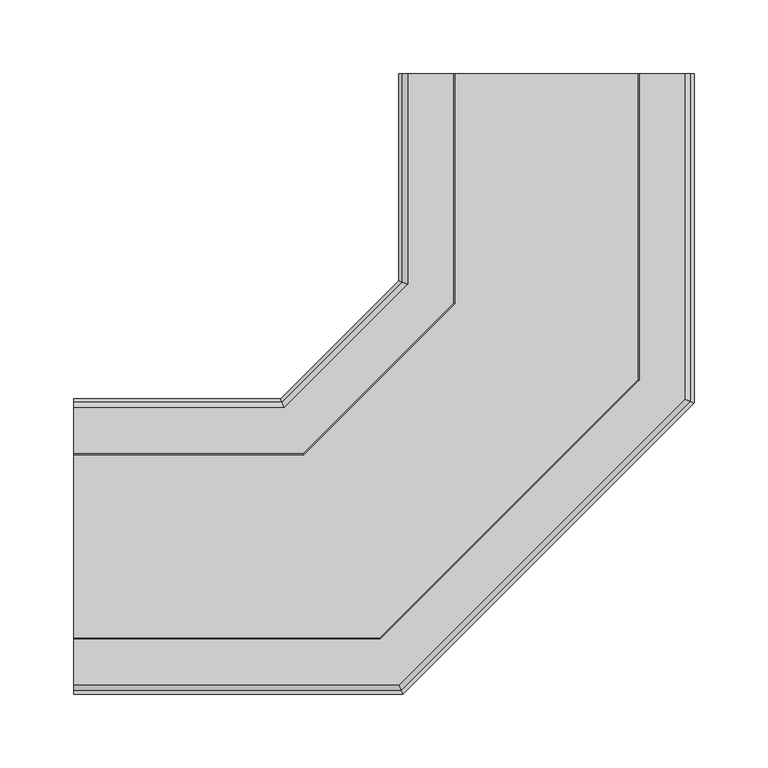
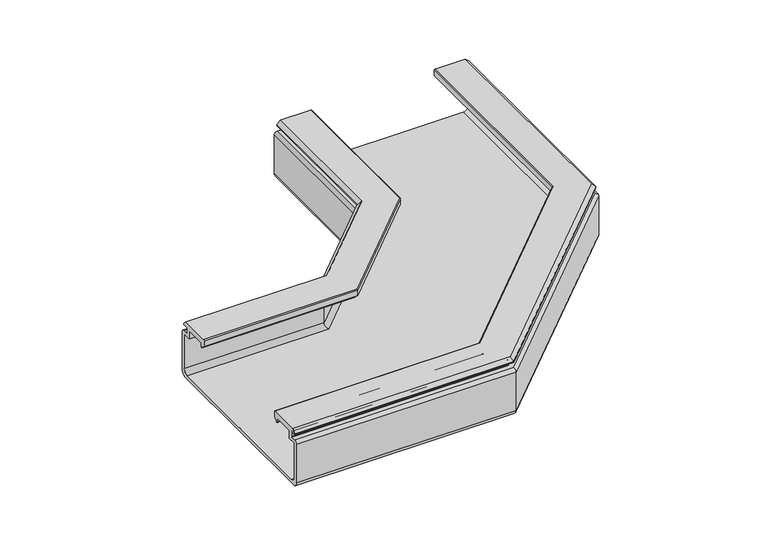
"""IFC4 building model written with IfcOpenShell, lengths in millimetres: cable carrier fitting geometry, CPBPE_Horizontal Bend_Basorplast : Basorplast CPBPE."""

from ifc_helpers import new_model, si_unit, frame, origin, place, context, project, spatial, polyline, circle_curve, ellipse_curve, source, transform, mapped, element, save
from ifc_brep_helpers import plane_surface, cylinder_surface, revolved_surface, advanced_brep


def cable_carrier_fitting_6fc50fa4(model_context):
    return source(origin(), model_context, "Body", "AdvancedBrep", [
        advanced_brep(
        [(-65.6464466, 320.0, 19.6464466), (-66.5, 320.0, 20.0), (-66.5, 320.0, 24.0), (-87.9, 320.0, 24.0), (-87.9, 320.0, 15.7), (-96.4, 320.0, 15.7), (-96.4, 320.0, -21.4), (-91.4, 320.0, -26.4), (91.4, 320.0, -26.4), (96.4, 320.0, -21.4), (96.4, 320.0, 15.7), (87.9, 320.0, 15.7), (87.9, 320.0, 24.0), (66.5, 320.0, 24.0), (66.5, 320.0, 20.0), (65.6464466, 320.0, 19.6464466), (62.0, 320.0, 23.2928932), (62.0, 320.0, 29.0), (63.0, 320.0, 30.0), (93.8, 320.0, 30.0), (97.5, 320.0, 26.3), (97.5, 320.0, 25.3), (92.0, 320.0, 25.3), (91.5, 320.0, 24.8), (91.5, 320.0, 19.8), (92.0, 320.0, 19.3), (97.0, 320.0, 19.3), (100.0, 320.0, 16.3), (100.0, 320.0, -25.0), (95.0, 320.0, -30.0), (-95.0, 320.0, -30.0), (-100.0, 320.0, -25.0), (-100.0, 320.0, 16.3), (-97.0, 320.0, 19.3), (-92.0, 320.0, 19.3), (-91.5, 320.0, 19.8), (-91.5, 320.0, 24.8), (-92.0, 320.0, 25.3), (-97.5, 320.0, 25.3), (-97.5, 320.0, 26.3), (-93.8, 320.0, 30.0), (-63.0, 320.0, 30.0), (-62.0, 320.0, 29.0), (-62.0, 320.0, 23.2928932), (-65.6464466, 165.7702923, 19.6464466), (-66.5, 166.1238457, 20.0), (-66.5, 166.1238457, 24.0), (-166.1238457, 66.5, 24.0), (-320.0, 66.5, 24.0), (-320.0, 87.9, 24.0), (-174.9880159, 87.9, 24.0), (-87.9, 174.9880159, 24.0), (-87.9, 174.9880159, 15.7), (-174.9880159, 87.9, 15.7), (-320.0, 87.9, 15.7), (-320.0, 96.4, 15.7), (-178.5088312, 96.4, 15.7), (-96.4, 178.5088312, 15.7), (-96.4, 178.5088312, -21.4), (-91.4, 176.4377634, -26.4), (-176.4377634, 91.4, -26.4), (-320.0, 91.4, -26.4), (-320.0, -91.4, -26.4), (-100.7195242, -91.4, -26.4), (91.4, 100.7195242, -26.4), (96.4, 98.6484563, -21.4), (96.4, 98.6484563, 15.7), (-98.6484563, -96.4, 15.7), (-320.0, -96.4, 15.7), (-320.0, -87.9, 15.7), (-102.1692716, -87.9, 15.7), (87.9, 102.1692716, 15.7), (87.9, 102.1692716, 24.0), (-102.1692716, -87.9, 24.0), (-320.0, -87.9, 24.0), (-320.0, -66.5, 24.0), (-111.0334419, -66.5, 24.0), (66.5, 111.0334419, 24.0), (66.5, 111.0334419, 20.0), (65.6464466, 111.3869953, 19.6464466), (62.0, 112.8974029, 23.2928932), (62.0, 112.8974029, 29.0), (63.0, 112.4831893, 30.0), (-112.4831893, -63.0, 30.0), (-320.0, -63.0, 30.0), (-320.0, -93.8, 30.0), (-99.7254116, -93.8, 30.0), (93.8, 99.7254116, 30.0), (97.5, 98.1928214, 26.3), (97.5, 98.1928214, 25.3), (-98.1928214, -97.5, 25.3), (-320.0, -97.5, 25.3), (-320.0, -92.0, 25.3), (-100.470996, -92.0, 25.3), (92.0, 100.470996, 25.3), (91.5, 100.6781028, 24.8), (91.5, 100.6781028, 19.8), (92.0, 100.470996, 19.3), (-100.470996, -92.0, 19.3), (-320.0, -92.0, 19.3), (-320.0, -97.0, 19.3), (-98.3999282, -97.0, 19.3), (97.0, 98.3999282, 19.3), (100.0, 97.1572875, 16.3), (100.0, 97.1572875, -25.0), (95.0, 99.2283553, -30.0), (-99.2283553, -95.0, -30.0), (-320.0, -95.0, -30.0), (-320.0, 95.0, -30.0), (-177.9289322, 95.0, -30.0), (-95.0, 177.9289322, -30.0), (-100.0, 180.0, -25.0), (-100.0, 180.0, 16.3), (-97.0, 178.7573593, 19.3), (-178.7573593, 97.0, 19.3), (-320.0, 97.0, 19.3), (-320.0, 92.0, 19.3), (-176.6862915, 92.0, 19.3), (-92.0, 176.6862915, 19.3), (-91.5, 176.4791847, 19.8), (-91.5, 176.4791847, 24.8), (-92.0, 176.6862915, 25.3), (-176.6862915, 92.0, 25.3), (-320.0, 92.0, 25.3), (-320.0, 97.5, 25.3), (-178.9644661, 97.5, 25.3), (-97.5, 178.9644661, 25.3), (-97.5, 178.9644661, 26.3), (-93.8, 177.4318759, 30.0), (-177.4318759, 93.8, 30.0), (-320.0, 93.8, 30.0), (-320.0, 63.0, 30.0), (-164.6740982, 63.0, 30.0), (-63.0, 164.6740982, 30.0), (-62.0, 164.2598846, 29.0), (-62.0, 164.2598846, 23.2928932), (-165.7702923, 65.6464466, 19.6464466), (-166.1238457, 66.5, 20.0), (-178.5088312, 96.4, -21.4), (-98.6484563, -96.4, -21.4), (-111.0334419, -66.5, 20.0), (-111.3869953, -65.6464466, 19.6464466), (-112.8974029, -62.0, 23.2928932), (-112.8974029, -62.0, 29.0), (-98.1928214, -97.5, 26.3), (-100.6781028, -91.5, 24.8), (-100.6781028, -91.5, 19.8), (-97.1572875, -100.0, 16.3), (-97.1572875, -100.0, -25.0), (-180.0, 100.0, -25.0), (-180.0, 100.0, 16.3), (-176.4791847, 91.5, 19.8), (-176.4791847, 91.5, 24.8), (-178.9644661, 97.5, 26.3), (-164.2598846, 62.0, 29.0), (-164.2598846, 62.0, 23.2928932), (-320.0, 65.6464466, 19.6464466), (-320.0, 62.0, 23.2928932), (-320.0, 62.0, 29.0), (-320.0, 97.5, 26.3), (-320.0, 91.5, 24.8), (-320.0, 91.5, 19.8), (-320.0, 100.0, 16.3), (-320.0, 100.0, -25.0), (-320.0, -100.0, -25.0), (-320.0, -100.0, 16.3), (-320.0, -91.5, 19.8), (-320.0, -91.5, 24.8), (-320.0, -97.5, 26.3), (-320.0, -62.0, 29.0), (-320.0, -62.0, 23.2928932), (-320.0, -65.6464466, 19.6464466), (-320.0, -66.5, 20.0), (-320.0, -96.4, -21.4), (-320.0, 96.4, -21.4), (-320.0, 66.5, 20.0)],
        [
            (0, 1, circle_curve(frame((-66.0, 320.0, 20.0), z_axis=(0.0, 1.0, 0.0), x_axis=(1.0, 0.0, 0.0)), 0.5)),
            (1, 2),
            (2, 3),
            (3, 4),
            (4, 5),
            (5, 6),
            (6, 7, circle_curve(frame((-91.4, 320.0, -21.4), z_axis=(0.0, -1.0, 0.0), x_axis=(1.0, 0.0, 0.0)), 5.0)),
            (7, 8),
            (8, 9, circle_curve(frame((91.4, 320.0, -21.4), z_axis=(0.0, -1.0, 0.0), x_axis=(1.0, 0.0, 0.0)), 5.0)),
            (9, 10),
            (10, 11),
            (11, 12),
            (12, 13),
            (13, 14),
            (14, 15, circle_curve(frame((66.0, 320.0, 20.0), z_axis=(0.0, 1.0, 0.0), x_axis=(1.0, 0.0, 0.0)), 0.5)),
            (15, 16),
            (16, 17),
            (17, 18, circle_curve(frame((63.0, 320.0, 29.0), z_axis=(0.0, 1.0, 0.0), x_axis=(1.0, 0.0, 0.0)), 1.0)),
            (18, 19),
            (19, 20),
            (20, 21),
            (21, 22),
            (22, 23, circle_curve(frame((92.0, 320.0, 24.8), z_axis=(0.0, -1.0, 0.0), x_axis=(1.0, 0.0, 0.0)), 0.5)),
            (23, 24),
            (24, 25, circle_curve(frame((92.0, 320.0, 19.8), z_axis=(0.0, -1.0, 0.0), x_axis=(1.0, 0.0, 0.0)), 0.5)),
            (25, 26),
            (26, 27, circle_curve(frame((97.0, 320.0, 16.3), z_axis=(0.0, 1.0, 0.0), x_axis=(1.0, 0.0, 0.0)), 3.0)),
            (27, 28),
            (28, 29, circle_curve(frame((95.0, 320.0, -25.0), z_axis=(0.0, 1.0, 0.0), x_axis=(1.0, 0.0, 0.0)), 5.0)),
            (29, 30),
            (30, 31, circle_curve(frame((-95.0, 320.0, -25.0), z_axis=(0.0, 1.0, 0.0), x_axis=(1.0, 0.0, 0.0)), 5.0)),
            (31, 32),
            (32, 33, circle_curve(frame((-97.0, 320.0, 16.3), z_axis=(0.0, 1.0, 0.0), x_axis=(1.0, 0.0, 0.0)), 3.0)),
            (33, 34),
            (34, 35, circle_curve(frame((-92.0, 320.0, 19.8), z_axis=(0.0, -1.0, 0.0), x_axis=(1.0, 0.0, 0.0)), 0.5)),
            (35, 36),
            (36, 37, circle_curve(frame((-92.0, 320.0, 24.8), z_axis=(0.0, -1.0, 0.0), x_axis=(1.0, 0.0, 0.0)), 0.5)),
            (37, 38),
            (38, 39),
            (39, 40),
            (40, 41),
            (41, 42, circle_curve(frame((-63.0, 320.0, 29.0), z_axis=(0.0, 1.0, 0.0), x_axis=(1.0, 0.0, 0.0)), 1.0)),
            (42, 43),
            (43, 0),
            (0, 44),
            (44, 45, ellipse_curve(frame((-66.0, 165.9167389, 20.0), z_axis=(0.3826834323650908, 0.9238795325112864, 0.0), x_axis=(-0.9238795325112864, 0.38268343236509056, 0.0)), 0.5411961, 0.5)),
            (45, 1),
            (45, 46),
            (46, 2),
            (46, 47),
            (47, 48),
            (48, 49),
            (49, 50),
            (50, 51),
            (51, 3),
            (51, 52),
            (52, 4),
            (52, 53),
            (53, 54),
            (54, 55),
            (55, 56),
            (56, 57),
            (57, 5),
            (57, 58),
            (58, 6),
            (58, 59, ellipse_curve(frame((-91.4, 176.4377634, -21.4), z_axis=(-0.3826834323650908, -0.9238795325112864, 0.0), x_axis=(0.9238795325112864, -0.38268343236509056, 0.0)), 5.411961, 5.0)),
            (59, 7),
            (59, 60),
            (60, 61),
            (61, 62),
            (62, 63),
            (63, 64),
            (64, 8),
            (64, 65, ellipse_curve(frame((91.4, 100.7195242, -21.4), z_axis=(-0.3826834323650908, -0.9238795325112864, 0.0), x_axis=(0.9238795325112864, -0.38268343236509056, 0.0)), 5.411961, 5.0)),
            (65, 9),
            (65, 66),
            (66, 10),
            (66, 67),
            (67, 68),
            (68, 69),
            (69, 70),
            (70, 71),
            (71, 11),
            (71, 72),
            (72, 12),
            (72, 73),
            (73, 74),
            (74, 75),
            (75, 76),
            (76, 77),
            (77, 13),
            (77, 78),
            (78, 14),
            (78, 79, ellipse_curve(frame((66.0, 111.2405486, 20.0), z_axis=(0.3826834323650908, 0.9238795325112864, 0.0), x_axis=(-0.9238795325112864, 0.38268343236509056, 0.0)), 0.5411961, 0.5)),
            (79, 15),
            (79, 80),
            (80, 16),
            (80, 81),
            (81, 17),
            (81, 82, ellipse_curve(frame((63.0, 112.4831893, 29.0), z_axis=(0.3826834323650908, 0.9238795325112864, 0.0), x_axis=(-0.9238795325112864, 0.38268343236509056, 0.0)), 1.0823922, 1.0)),
            (82, 18),
            (82, 83),
            (83, 84),
            (84, 85),
            (85, 86),
            (86, 87),
            (87, 19),
            (87, 88),
            (88, 20),
            (88, 89),
            (89, 21),
            (89, 90),
            (90, 91),
            (91, 92),
            (92, 93),
            (93, 94),
            (94, 22),
            (94, 95, ellipse_curve(frame((92.0, 100.470996, 24.8), z_axis=(-0.3826834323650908, -0.9238795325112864, 0.0), x_axis=(0.9238795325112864, -0.38268343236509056, 0.0)), 0.5411961, 0.5)),
            (95, 23),
            (95, 96),
            (96, 24),
            (96, 97, ellipse_curve(frame((92.0, 100.470996, 19.8), z_axis=(-0.3826834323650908, -0.9238795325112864, 0.0), x_axis=(0.9238795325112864, -0.38268343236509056, 0.0)), 0.5411961, 0.5)),
            (97, 25),
            (97, 98),
            (98, 99),
            (99, 100),
            (100, 101),
            (101, 102),
            (102, 26),
            (102, 103, ellipse_curve(frame((97.0, 98.3999282, 16.3), z_axis=(0.3826834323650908, 0.9238795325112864, 0.0), x_axis=(-0.9238795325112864, 0.38268343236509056, 0.0)), 3.2471766, 3.0)),
            (103, 27),
            (103, 104),
            (104, 28),
            (104, 105, ellipse_curve(frame((95.0, 99.2283553, -25.0), z_axis=(0.3826834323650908, 0.9238795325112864, 0.0), x_axis=(-0.9238795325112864, 0.38268343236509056, 0.0)), 5.411961, 5.0)),
            (105, 29),
            (105, 106),
            (106, 107),
            (107, 108),
            (108, 109),
            (109, 110),
            (110, 30),
            (110, 111, ellipse_curve(frame((-95.0, 177.9289322, -25.0), z_axis=(0.3826834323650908, 0.9238795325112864, 0.0), x_axis=(-0.9238795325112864, 0.38268343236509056, 0.0)), 5.411961, 5.0)),
            (111, 31),
            (111, 112),
            (112, 32),
            (112, 113, ellipse_curve(frame((-97.0, 178.7573593, 16.3), z_axis=(0.3826834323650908, 0.9238795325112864, 0.0), x_axis=(-0.9238795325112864, 0.38268343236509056, 0.0)), 3.2471766, 3.0)),
            (113, 33),
            (113, 114),
            (114, 115),
            (115, 116),
            (116, 117),
            (117, 118),
            (118, 34),
            (118, 119, ellipse_curve(frame((-92.0, 176.6862915, 19.8), z_axis=(-0.3826834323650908, -0.9238795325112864, 0.0), x_axis=(0.9238795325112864, -0.38268343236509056, 0.0)), 0.5411961, 0.5)),
            (119, 35),
            (119, 120),
            (120, 36),
            (120, 121, ellipse_curve(frame((-92.0, 176.6862915, 24.8), z_axis=(-0.3826834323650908, -0.9238795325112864, 0.0), x_axis=(0.9238795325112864, -0.38268343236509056, 0.0)), 0.5411961, 0.5)),
            (121, 37),
            (121, 122),
            (122, 123),
            (123, 124),
            (124, 125),
            (125, 126),
            (126, 38),
            (126, 127),
            (127, 39),
            (127, 128),
            (128, 40),
            (128, 129),
            (129, 130),
            (130, 131),
            (131, 132),
            (132, 133),
            (133, 41),
            (133, 134, ellipse_curve(frame((-63.0, 164.6740982, 29.0), z_axis=(0.3826834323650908, 0.9238795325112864, 0.0), x_axis=(-0.9238795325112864, 0.38268343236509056, 0.0)), 1.0823922, 1.0)),
            (134, 42),
            (134, 135),
            (135, 43),
            (135, 44),
            (44, 136),
            (136, 137, ellipse_curve(frame((-165.9167389, 66.0, 20.0), z_axis=(0.9238795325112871, 0.3826834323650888, 0.0), x_axis=(-0.38268343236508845, 0.9238795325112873, 0.0)), 0.5411961, 0.5)),
            (137, 45),
            (137, 47),
            (50, 53),
            (56, 138),
            (138, 58),
            (138, 60, ellipse_curve(frame((-176.4377634, 91.4, -21.4), z_axis=(-0.9238795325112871, -0.3826834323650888, 0.0), x_axis=(0.38268343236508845, -0.9238795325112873, 0.0)), 5.411961, 5.0)),
            (63, 139, ellipse_curve(frame((-100.7195242, -91.4, -21.4), z_axis=(-0.9238795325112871, -0.3826834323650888, 0.0), x_axis=(0.38268343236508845, -0.9238795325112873, 0.0)), 5.411961, 5.0)),
            (139, 65),
            (139, 67),
            (70, 73),
            (76, 140),
            (140, 78),
            (140, 141, ellipse_curve(frame((-111.2405486, -66.0, 20.0), z_axis=(0.9238795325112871, 0.3826834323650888, 0.0), x_axis=(-0.38268343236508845, 0.9238795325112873, 0.0)), 0.5411961, 0.5)),
            (141, 79),
            (141, 142),
            (142, 80),
            (142, 143),
            (143, 81),
            (143, 83, ellipse_curve(frame((-112.4831893, -63.0, 29.0), z_axis=(0.9238795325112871, 0.3826834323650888, 0.0), x_axis=(-0.38268343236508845, 0.9238795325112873, 0.0)), 1.0823922, 1.0)),
            (86, 144),
            (144, 88),
            (144, 90),
            (93, 145, ellipse_curve(frame((-100.470996, -92.0, 24.8), z_axis=(-0.9238795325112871, -0.3826834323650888, 0.0), x_axis=(0.38268343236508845, -0.9238795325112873, 0.0)), 0.5411961, 0.5)),
            (145, 95),
            (145, 146),
            (146, 96),
            (146, 98, ellipse_curve(frame((-100.470996, -92.0, 19.8), z_axis=(-0.9238795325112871, -0.3826834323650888, 0.0), x_axis=(0.38268343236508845, -0.9238795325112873, 0.0)), 0.5411961, 0.5)),
            (101, 147, ellipse_curve(frame((-98.3999282, -97.0, 16.3), z_axis=(0.9238795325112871, 0.3826834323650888, 0.0), x_axis=(-0.38268343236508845, 0.9238795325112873, 0.0)), 3.2471766, 3.0)),
            (147, 103),
            (147, 148),
            (148, 104),
            (148, 106, ellipse_curve(frame((-99.2283553, -95.0, -25.0), z_axis=(0.9238795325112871, 0.3826834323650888, 0.0), x_axis=(-0.38268343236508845, 0.9238795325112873, 0.0)), 5.411961, 5.0)),
            (109, 149, ellipse_curve(frame((-177.9289322, 95.0, -25.0), z_axis=(0.9238795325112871, 0.3826834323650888, 0.0), x_axis=(-0.38268343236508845, 0.9238795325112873, 0.0)), 5.411961, 5.0)),
            (149, 111),
            (149, 150),
            (150, 112),
            (150, 114, ellipse_curve(frame((-178.7573593, 97.0, 16.3), z_axis=(0.9238795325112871, 0.3826834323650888, 0.0), x_axis=(-0.38268343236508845, 0.9238795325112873, 0.0)), 3.2471766, 3.0)),
            (117, 151, ellipse_curve(frame((-176.6862915, 92.0, 19.8), z_axis=(-0.9238795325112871, -0.3826834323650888, 0.0), x_axis=(0.38268343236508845, -0.9238795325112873, 0.0)), 0.5411961, 0.5)),
            (151, 119),
            (151, 152),
            (152, 120),
            (152, 122, ellipse_curve(frame((-176.6862915, 92.0, 24.8), z_axis=(-0.9238795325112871, -0.3826834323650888, 0.0), x_axis=(0.38268343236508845, -0.9238795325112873, 0.0)), 0.5411961, 0.5)),
            (125, 153),
            (153, 127),
            (153, 129),
            (132, 154, ellipse_curve(frame((-164.6740982, 63.0, 29.0), z_axis=(0.9238795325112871, 0.3826834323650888, 0.0), x_axis=(-0.38268343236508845, 0.9238795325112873, 0.0)), 1.0823922, 1.0)),
            (154, 134),
            (154, 155),
            (155, 135),
            (155, 136),
            (156, 157),
            (157, 158),
            (158, 131, circle_curve(frame((-320.0, 63.0, 29.0), z_axis=(-1.0, 0.0, 0.0), x_axis=(0.0, -1.0, 0.0)), 1.0)),
            (130, 159),
            (159, 124),
            (123, 160, circle_curve(frame((-320.0, 92.0, 24.8), z_axis=(1.0, 0.0, 0.0), x_axis=(0.0, -1.0, 0.0)), 0.5)),
            (160, 161),
            (161, 116, circle_curve(frame((-320.0, 92.0, 19.8), z_axis=(1.0, 0.0, 0.0), x_axis=(0.0, -1.0, 0.0)), 0.5)),
            (115, 162, circle_curve(frame((-320.0, 97.0, 16.3), z_axis=(-1.0, 0.0, 0.0), x_axis=(0.0, -1.0, 0.0)), 3.0)),
            (162, 163),
            (163, 108, circle_curve(frame((-320.0, 95.0, -25.0), z_axis=(-1.0, 0.0, 0.0), x_axis=(0.0, -1.0, 0.0)), 5.0)),
            (107, 164, circle_curve(frame((-320.0, -95.0, -25.0), z_axis=(-1.0, 0.0, 0.0), x_axis=(0.0, -1.0, 0.0)), 5.0)),
            (164, 165),
            (165, 100, circle_curve(frame((-320.0, -97.0, 16.3), z_axis=(-1.0, 0.0, 0.0), x_axis=(0.0, -1.0, 0.0)), 3.0)),
            (99, 166, circle_curve(frame((-320.0, -92.0, 19.8), z_axis=(1.0, 0.0, 0.0), x_axis=(0.0, -1.0, 0.0)), 0.5)),
            (166, 167),
            (167, 92, circle_curve(frame((-320.0, -92.0, 24.8), z_axis=(1.0, 0.0, 0.0), x_axis=(0.0, -1.0, 0.0)), 0.5)),
            (91, 168),
            (168, 85),
            (84, 169, circle_curve(frame((-320.0, -63.0, 29.0), z_axis=(-1.0, 0.0, 0.0), x_axis=(0.0, -1.0, 0.0)), 1.0)),
            (169, 170),
            (170, 171),
            (171, 172, circle_curve(frame((-320.0, -66.0, 20.0), z_axis=(-1.0, 0.0, 0.0), x_axis=(0.0, -1.0, 0.0)), 0.5)),
            (172, 75),
            (74, 69),
            (68, 173),
            (173, 62, circle_curve(frame((-320.0, -91.4, -21.4), z_axis=(1.0, 0.0, 0.0), x_axis=(0.0, -1.0, 0.0)), 5.0)),
            (61, 174, circle_curve(frame((-320.0, 91.4, -21.4), z_axis=(1.0, 0.0, 0.0), x_axis=(0.0, -1.0, 0.0)), 5.0)),
            (174, 55),
            (54, 49),
            (48, 175),
            (175, 156, circle_curve(frame((-320.0, 66.0, 20.0), z_axis=(-1.0, 0.0, 0.0), x_axis=(0.0, -1.0, 0.0)), 0.5)),
            (136, 156),
            (175, 137),
            (174, 138),
            (173, 139),
            (172, 140),
            (171, 141),
            (170, 142),
            (169, 143),
            (168, 144),
            (167, 145),
            (166, 146),
            (165, 147),
            (164, 148),
            (163, 149),
            (162, 150),
            (161, 151),
            (160, 152),
            (159, 153),
            (158, 154),
            (157, 155),
        ],
        [
            plane_surface(frame((0.0, 320.0, 0.0), z_axis=(0.0, 1.0, 0.0), x_axis=(0.0, 0.0, 1.0))),
            cylinder_surface(frame((-66.0, 320.0, 20.0), z_axis=(0.0, 1.0, 0.0), x_axis=(1.0, 0.0, 0.0)), 0.5),
            plane_surface(frame((-66.5, 320.0, 20.0), z_axis=(-1.0, 0.0, 0.0), x_axis=(0.0, -1.0, 0.0))),
            plane_surface(frame((-66.5, 320.0, 24.0), z_axis=(0.0, 0.0, -1.0), x_axis=(0.0, -1.0, 0.0))),
            plane_surface(frame((-87.9, 320.0, 24.0), z_axis=(1.0, 0.0, 0.0), x_axis=(0.0, -1.0, 0.0))),
            plane_surface(frame((-87.9, 320.0, 15.7), z_axis=(0.0, 0.0, -1.0), x_axis=(0.0, -1.0, 0.0))),
            plane_surface(frame((-96.4, 320.0, 15.7), z_axis=(1.0, 0.0, 0.0), x_axis=(0.0, -1.0, 0.0))),
            revolved_surface(polyline([(-86.4, 174.366695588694, -21.4), (-86.4, 320.0, -21.4)]), (-91.4, 320.0, -21.4), (0.0, -1.0, 0.0)),
            plane_surface(frame((-91.4, 320.0, -26.4), z_axis=(0.0, 0.0, 1.0), x_axis=(0.0, -1.0, 0.0))),
            revolved_surface(polyline([(96.4, 98.64845630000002, -21.4), (96.4, 320.0, -21.4)]), (91.4, 320.0, -21.4), (0.0, -1.0, 0.0)),
            plane_surface(frame((96.4, 320.0, -21.4), z_axis=(-1.0, 0.0, 0.0), x_axis=(0.0, -1.0, 0.0))),
            plane_surface(frame((96.4, 320.0, 15.7), z_axis=(0.0, 0.0, -1.0), x_axis=(0.0, -1.0, 0.0))),
            plane_surface(frame((87.9, 320.0, 15.7), z_axis=(-1.0, 0.0, 0.0), x_axis=(0.0, -1.0, 0.0))),
            plane_surface(frame((87.9, 320.0, 24.0), z_axis=(0.0, 0.0, -1.0), x_axis=(0.0, -1.0, 0.0))),
            plane_surface(frame((66.5, 320.0, 24.0), z_axis=(1.0, 0.0, 0.0), x_axis=(0.0, -1.0, 0.0))),
            cylinder_surface(frame((66.0, 320.0, 20.0), z_axis=(0.0, 1.0, 0.0), x_axis=(1.0, 0.0, 0.0)), 0.5),
            plane_surface(frame((65.6464466, 320.0, 19.6464466), z_axis=(-0.7071067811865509, 0.0, -0.7071067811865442), x_axis=(0.0, -1.0, 0.0))),
            plane_surface(frame((62.0, 320.0, 23.2928932), z_axis=(-1.0, 0.0, 0.0), x_axis=(0.0, -1.0, 0.0))),
            cylinder_surface(frame((63.0, 320.0, 29.0), z_axis=(0.0, 1.0, 0.0), x_axis=(1.0, 0.0, 0.0)), 1.0),
            plane_surface(frame((63.0, 320.0, 30.0), z_axis=(0.0, 0.0, 1.0), x_axis=(0.0, -1.0, 0.0))),
            plane_surface(frame((93.8, 320.0, 30.0), z_axis=(0.7071067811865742, 0.0, 0.7071067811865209), x_axis=(0.0, -1.0, 0.0))),
            plane_surface(frame((97.5, 320.0, 26.3), z_axis=(1.0, 0.0, 0.0), x_axis=(0.0, -1.0, 0.0))),
            plane_surface(frame((97.5, 320.0, 25.3), z_axis=(0.0, 0.0, -1.0), x_axis=(0.0, -1.0, 0.0))),
            revolved_surface(polyline([(92.5, 100.26388921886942, 24.8), (92.5, 320.0, 24.8)]), (92.0, 320.0, 24.8), (0.0, -1.0, 0.0)),
            plane_surface(frame((91.5, 320.0, 24.8), z_axis=(1.0, 0.0, 0.0), x_axis=(0.0, -1.0, 0.0))),
            revolved_surface(polyline([(92.5, 100.26388921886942, 19.8), (92.5, 320.0, 19.8)]), (92.0, 320.0, 19.8), (0.0, -1.0, 0.0)),
            plane_surface(frame((92.0, 320.0, 19.3), z_axis=(0.0, 0.0, 1.0), x_axis=(0.0, -1.0, 0.0))),
            cylinder_surface(frame((97.0, 320.0, 16.3), z_axis=(0.0, 1.0, 0.0), x_axis=(1.0, 0.0, 0.0)), 3.0),
            plane_surface(frame((100.0, 320.0, 16.3), z_axis=(1.0, 0.0, 0.0), x_axis=(0.0, -1.0, 0.0))),
            cylinder_surface(frame((95.0, 320.0, -25.0), z_axis=(0.0, 1.0, 0.0), x_axis=(1.0, 0.0, 0.0)), 5.0),
            plane_surface(frame((95.0, 320.0, -30.0), z_axis=(0.0, 0.0, -1.0), x_axis=(0.0, -1.0, 0.0))),
            cylinder_surface(frame((-95.0, 320.0, -25.0), z_axis=(0.0, 1.0, 0.0), x_axis=(1.0, 0.0, 0.0)), 5.0),
            plane_surface(frame((-100.0, 320.0, -25.0), z_axis=(-1.0, 0.0, 0.0), x_axis=(0.0, -1.0, 0.0))),
            cylinder_surface(frame((-97.0, 320.0, 16.3), z_axis=(0.0, 1.0, 0.0), x_axis=(1.0, 0.0, 0.0)), 3.0),
            plane_surface(frame((-97.0, 320.0, 19.3), z_axis=(0.0, 0.0, 1.0), x_axis=(0.0, -1.0, 0.0))),
            revolved_surface(polyline([(-91.5, 176.4791847, 19.8), (-91.5, 320.0, 19.8)]), (-92.0, 320.0, 19.8), (0.0, -1.0, 0.0)),
            plane_surface(frame((-91.5, 320.0, 19.8), z_axis=(-1.0, 0.0, 0.0), x_axis=(0.0, -1.0, 0.0))),
            revolved_surface(polyline([(-91.5, 176.4791847, 24.8), (-91.5, 320.0, 24.8)]), (-92.0, 320.0, 24.8), (0.0, -1.0, 0.0)),
            plane_surface(frame((-92.0, 320.0, 25.3), z_axis=(0.0, 0.0, -1.0), x_axis=(0.0, -1.0, 0.0))),
            plane_surface(frame((-97.5, 320.0, 25.3), z_axis=(-1.0, 0.0, 0.0), x_axis=(0.0, -1.0, 0.0))),
            plane_surface(frame((-97.5, 320.0, 26.3), z_axis=(-0.7071067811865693, 0.0, 0.7071067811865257), x_axis=(0.0, -1.0, 0.0))),
            plane_surface(frame((-93.8, 320.0, 30.0), z_axis=(0.0, 0.0, 1.0), x_axis=(0.0, -1.0, 0.0))),
            cylinder_surface(frame((-63.0, 320.0, 29.0), z_axis=(0.0, 1.0, 0.0), x_axis=(1.0, 0.0, 0.0)), 1.0),
            plane_surface(frame((-62.0, 320.0, 29.0), z_axis=(1.0, 0.0, 0.0), x_axis=(0.0, -1.0, 0.0))),
            plane_surface(frame((-62.0, 320.0, 23.2928932), z_axis=(0.7071067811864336, 0.0, -0.7071067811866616), x_axis=(0.0, -1.0, 0.0))),
            cylinder_surface(frame((-46.6690476, 185.2476913, 20.0), z_axis=(0.707106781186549, 0.7071067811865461, 0.0), x_axis=(0.7071067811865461, -0.707106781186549, 0.0)), 0.5),
            plane_surface(frame((-66.5, 166.1238457, 20.0), z_axis=(-0.7071067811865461, 0.707106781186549, 0.0), x_axis=(-0.707106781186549, -0.7071067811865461, 0.0))),
            plane_surface(frame((-87.9, 174.9880159, 24.0), z_axis=(0.7071067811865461, -0.7071067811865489, 0.0), x_axis=(-0.7071067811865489, -0.7071067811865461, 0.0))),
            plane_surface(frame((-96.4, 178.5088312, 15.7), z_axis=(0.707106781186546, -0.7071067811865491, 0.0), x_axis=(-0.7071067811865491, -0.707106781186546, 0.0))),
            revolved_surface(polyline([(-174.36669558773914, 86.40000000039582, -21.4), (-86.40000000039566, 174.36669558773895, -21.4)]), (-64.6295598, 203.2082036, -21.4), (-0.707106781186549, -0.7071067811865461, 0.0)),
            revolved_surface(polyline([(-98.64845638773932, -96.39999999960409, -21.4), (96.39999999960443, 98.64845638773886, -21.4)]), (64.6295598, 73.949084, -21.4), (-0.707106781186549, -0.7071067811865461, 0.0)),
            plane_surface(frame((96.4, 98.6484563, -21.4), z_axis=(-0.707106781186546, 0.707106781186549, 0.0), x_axis=(-0.707106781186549, -0.707106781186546, 0.0))),
            plane_surface(frame((87.9, 102.1692716, 15.7), z_axis=(-0.707106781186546, 0.707106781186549, 0.0), x_axis=(-0.707106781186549, -0.707106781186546, 0.0))),
            plane_surface(frame((66.5, 111.0334419, 24.0), z_axis=(0.707106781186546, -0.7071067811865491, 0.0), x_axis=(-0.7071067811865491, -0.707106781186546, 0.0))),
            cylinder_surface(frame((46.6690476, 91.9095962, 20.0), z_axis=(0.707106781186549, 0.7071067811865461, 0.0), x_axis=(0.7071067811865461, -0.707106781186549, 0.0)), 0.5),
            plane_surface(frame((65.6464466, 111.3869953, 19.6464466), z_axis=(-0.5000000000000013, 0.5000000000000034, -0.7071067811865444), x_axis=(-0.707106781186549, -0.707106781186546, 0.0))),
            plane_surface(frame((62.0, 112.8974029, 23.2928932), z_axis=(-0.7071067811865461, 0.707106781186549, 0.0), x_axis=(-0.707106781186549, -0.7071067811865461, 0.0))),
            cylinder_surface(frame((44.5477272, 94.0309165, 29.0), z_axis=(0.707106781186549, 0.7071067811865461, 0.0), x_axis=(0.7071067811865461, -0.707106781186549, 0.0)), 1.0),
            plane_surface(frame((93.8, 99.7254116, 30.0), z_axis=(0.5000000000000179, -0.50000000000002, 0.707106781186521), x_axis=(-0.7071067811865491, -0.7071067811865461, 0.0))),
            plane_surface(frame((97.5, 98.1928214, 26.3), z_axis=(0.707106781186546, -0.707106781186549, 0.0), x_axis=(-0.707106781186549, -0.707106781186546, 0.0))),
            revolved_surface(polyline([(-100.26388921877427, -92.49999999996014, 24.8), (92.4999999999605, 100.26388921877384, 24.8)]), (65.0538239, 73.5248199, 24.8), (-0.707106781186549, -0.7071067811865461, 0.0)),
            plane_surface(frame((91.5, 100.6781028, 24.8), z_axis=(0.707106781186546, -0.707106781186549, 0.0), x_axis=(-0.707106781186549, -0.707106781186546, 0.0))),
            revolved_surface(polyline([(-100.26388921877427, -92.49999999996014, 19.8), (92.4999999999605, 100.26388921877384, 19.8)]), (65.0538239, 73.5248199, 19.8), (-0.707106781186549, -0.7071067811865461, 0.0)),
            cylinder_surface(frame((68.5893578, 69.989286, 16.3), z_axis=(0.707106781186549, 0.7071067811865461, 0.0), x_axis=(0.7071067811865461, -0.707106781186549, 0.0)), 3.0),
            plane_surface(frame((100.0, 97.1572875, 16.3), z_axis=(0.707106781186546, -0.707106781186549, 0.0), x_axis=(-0.707106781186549, -0.707106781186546, 0.0))),
            cylinder_surface(frame((67.1751442, 71.4034995, -25.0), z_axis=(0.707106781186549, 0.7071067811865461, 0.0), x_axis=(0.7071067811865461, -0.707106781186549, 0.0)), 5.0),
            cylinder_surface(frame((-67.1751442, 205.753788, -25.0), z_axis=(0.707106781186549, 0.7071067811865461, 0.0), x_axis=(0.7071067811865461, -0.707106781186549, 0.0)), 5.0),
            plane_surface(frame((-100.0, 180.0, -25.0), z_axis=(-0.7071067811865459, 0.7071067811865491, 0.0), x_axis=(-0.7071067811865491, -0.7071067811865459, 0.0))),
            cylinder_surface(frame((-68.5893578, 207.1680015, 16.3), z_axis=(0.707106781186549, 0.7071067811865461, 0.0), x_axis=(0.7071067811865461, -0.707106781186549, 0.0)), 3.0),
            revolved_surface(polyline([(-176.47918471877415, 91.50000000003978, 19.8), (-91.50000000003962, 176.47918471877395, 19.8)]), (-65.0538239, 203.6324676, 19.8), (-0.707106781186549, -0.7071067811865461, 0.0)),
            plane_surface(frame((-91.5, 176.4791847, 19.8), z_axis=(-0.7071067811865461, 0.7071067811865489, 0.0), x_axis=(-0.7071067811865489, -0.7071067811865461, 0.0))),
            revolved_surface(polyline([(-176.47918471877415, 91.50000000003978, 24.8), (-91.50000000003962, 176.47918471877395, 24.8)]), (-65.0538239, 203.6324676, 24.8), (-0.707106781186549, -0.7071067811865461, 0.0)),
            plane_surface(frame((-97.5, 178.9644661, 25.3), z_axis=(-0.707106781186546, 0.7071067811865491, 0.0), x_axis=(-0.7071067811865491, -0.707106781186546, 0.0))),
            plane_surface(frame((-97.5, 178.9644661, 26.3), z_axis=(-0.5000000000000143, 0.5000000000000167, 0.7071067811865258), x_axis=(-0.7071067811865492, -0.7071067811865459, 0.0))),
            cylinder_surface(frame((-44.5477272, 183.126371, 29.0), z_axis=(0.707106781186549, 0.7071067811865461, 0.0), x_axis=(0.7071067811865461, -0.707106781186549, 0.0)), 1.0),
            plane_surface(frame((-62.0, 164.2598846, 29.0), z_axis=(0.7071067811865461, -0.7071067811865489, 0.0), x_axis=(-0.7071067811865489, -0.7071067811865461, 0.0))),
            plane_surface(frame((-62.0, 164.2598846, 23.2928932), z_axis=(0.4999999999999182, -0.49999999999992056, -0.7071067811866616), x_axis=(-0.7071067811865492, -0.7071067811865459, 0.0))),
            plane_surface(frame((-320.0, 0.0, 0.0), z_axis=(-1.0, 0.0, 0.0), x_axis=(0.0, 0.0, 1.0))),
            cylinder_surface(frame((-138.5786438, 66.0, 20.0), z_axis=(1.0, 0.0, 0.0), x_axis=(0.0, -1.0, 0.0)), 0.5),
            plane_surface(frame((-166.1238457, 66.5, 20.0), z_axis=(0.0, 1.0, 0.0), x_axis=(-1.0, 0.0, 0.0))),
            plane_surface(frame((-174.9880159, 87.9, 24.0), z_axis=(0.0, -1.0, 0.0), x_axis=(-1.0, 0.0, 0.0))),
            plane_surface(frame((-178.5088312, 96.4, 15.7), z_axis=(0.0, -1.0, 0.0), x_axis=(-1.0, 0.0, 0.0))),
            revolved_surface(polyline([(-320.0, 86.4, -21.4), (-174.366695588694, 86.4, -21.4)]), (-138.5786438, 91.4, -21.4), (-1.0, 0.0, 0.0)),
            revolved_surface(polyline([(-320.0, -96.4, -21.4), (-98.6484563, -96.4, -21.4)]), (-138.5786438, -91.4, -21.4), (-1.0, 0.0, 0.0)),
            plane_surface(frame((-98.6484563, -96.4, -21.4), z_axis=(0.0, 1.0, 0.0), x_axis=(-1.0, 0.0, 0.0))),
            plane_surface(frame((-102.1692716, -87.9, 15.7), z_axis=(0.0, 1.0, 0.0), x_axis=(-1.0, 0.0, 0.0))),
            plane_surface(frame((-111.0334419, -66.5, 24.0), z_axis=(0.0, -1.0, 0.0), x_axis=(-1.0, 0.0, 0.0))),
            cylinder_surface(frame((-138.5786438, -66.0, 20.0), z_axis=(1.0, 0.0, 0.0), x_axis=(0.0, -1.0, 0.0)), 0.5),
            plane_surface(frame((-111.3869953, -65.6464466, 19.6464466), z_axis=(0.0, 0.7071067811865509, -0.7071067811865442), x_axis=(-1.0, 0.0, 0.0))),
            plane_surface(frame((-112.8974029, -62.0, 23.2928932), z_axis=(0.0, 1.0, 0.0), x_axis=(-1.0, 0.0, 0.0))),
            cylinder_surface(frame((-138.5786438, -63.0, 29.0), z_axis=(1.0, 0.0, 0.0), x_axis=(0.0, -1.0, 0.0)), 1.0),
            plane_surface(frame((-99.7254116, -93.8, 30.0), z_axis=(0.0, -0.7071067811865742, 0.7071067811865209), x_axis=(-1.0, 0.0, 0.0))),
            plane_surface(frame((-98.1928214, -97.5, 26.3), z_axis=(0.0, -1.0, 0.0), x_axis=(-1.0, 0.0, 0.0))),
            revolved_surface(polyline([(-320.0, -92.5, 24.8), (-100.2638892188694, -92.5, 24.8)]), (-138.5786438, -92.0, 24.8), (-1.0, 0.0, 0.0)),
            plane_surface(frame((-100.6781028, -91.5, 24.8), z_axis=(0.0, -1.0, 0.0), x_axis=(-1.0, 0.0, 0.0))),
            revolved_surface(polyline([(-320.0, -92.5, 19.8), (-100.2638892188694, -92.5, 19.8)]), (-138.5786438, -92.0, 19.8), (-1.0, 0.0, 0.0)),
            cylinder_surface(frame((-138.5786438, -97.0, 16.3), z_axis=(1.0, 0.0, 0.0), x_axis=(0.0, -1.0, 0.0)), 3.0),
            plane_surface(frame((-97.1572875, -100.0, 16.3), z_axis=(0.0, -1.0, 0.0), x_axis=(-1.0, 0.0, 0.0))),
            cylinder_surface(frame((-138.5786438, -95.0, -25.0), z_axis=(1.0, 0.0, 0.0), x_axis=(0.0, -1.0, 0.0)), 5.0),
            cylinder_surface(frame((-138.5786438, 95.0, -25.0), z_axis=(1.0, 0.0, 0.0), x_axis=(0.0, -1.0, 0.0)), 5.0),
            plane_surface(frame((-180.0, 100.0, -25.0), z_axis=(0.0, 1.0, 0.0), x_axis=(-1.0, 0.0, 0.0))),
            cylinder_surface(frame((-138.5786438, 97.0, 16.3), z_axis=(1.0, 0.0, 0.0), x_axis=(0.0, -1.0, 0.0)), 3.0),
            revolved_surface(polyline([(-320.0, 91.5, 19.8), (-176.4791847, 91.5, 19.8)]), (-138.5786438, 92.0, 19.8), (-1.0, 0.0, 0.0)),
            plane_surface(frame((-176.4791847, 91.5, 19.8), z_axis=(0.0, 1.0, 0.0), x_axis=(-1.0, 0.0, 0.0))),
            revolved_surface(polyline([(-320.0, 91.5, 24.8), (-176.4791847, 91.5, 24.8)]), (-138.5786438, 92.0, 24.8), (-1.0, 0.0, 0.0)),
            plane_surface(frame((-178.9644661, 97.5, 25.3), z_axis=(0.0, 1.0, 0.0), x_axis=(-1.0, 0.0, 0.0))),
            plane_surface(frame((-178.9644661, 97.5, 26.3), z_axis=(0.0, 0.7071067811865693, 0.7071067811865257), x_axis=(-1.0, 0.0, 0.0))),
            cylinder_surface(frame((-138.5786438, 63.0, 29.0), z_axis=(1.0, 0.0, 0.0), x_axis=(0.0, -1.0, 0.0)), 1.0),
            plane_surface(frame((-164.2598846, 62.0, 29.0), z_axis=(0.0, -1.0, 0.0), x_axis=(-1.0, 0.0, 0.0))),
            plane_surface(frame((-164.2598846, 62.0, 23.2928932), z_axis=(0.0, -0.7071067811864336, -0.7071067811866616), x_axis=(-1.0, 0.0, 0.0))),
        ],
        [
            (0, [[1, 2, 3, 4, 5, 6, 7, 8, 9, 10, 11, 12, 13, 14, 15, 16, 17, 18, 19, 20, 21, 22, 23, 24, 25, 26, 27, 28, 29, 30, 31, 32, 33, 34, 35, 36, 37, 38, 39, 40, 41, 42, 43, 44]]),
            (1, [[-1, 45, 46, 47]]),
            (2, [[-2, -47, 48, 49]]),
            (3, [[-3, -49, 50, 51, 52, 53, 54, 55]]),
            (4, [[-4, -55, 56, 57]]),
            (5, [[-5, -57, 58, 59, 60, 61, 62, 63]]),
            (6, [[-6, -63, 64, 65]]),
            (7, [[-7, -65, 66, 67]]),
            (8, [[-8, -67, 68, 69, 70, 71, 72, 73]]),
            (9, [[-9, -73, 74, 75]]),
            (10, [[-10, -75, 76, 77]]),
            (11, [[-11, -77, 78, 79, 80, 81, 82, 83]]),
            (12, [[-12, -83, 84, 85]]),
            (13, [[-13, -85, 86, 87, 88, 89, 90, 91]]),
            (14, [[-14, -91, 92, 93]]),
            (15, [[-15, -93, 94, 95]]),
            (16, [[-16, -95, 96, 97]]),
            (17, [[-17, -97, 98, 99]]),
            (18, [[-18, -99, 100, 101]]),
            (19, [[-19, -101, 102, 103, 104, 105, 106, 107]]),
            (20, [[-20, -107, 108, 109]]),
            (21, [[-21, -109, 110, 111]]),
            (22, [[-22, -111, 112, 113, 114, 115, 116, 117]]),
            (23, [[-23, -117, 118, 119]]),
            (24, [[-24, -119, 120, 121]]),
            (25, [[-25, -121, 122, 123]]),
            (26, [[-26, -123, 124, 125, 126, 127, 128, 129]]),
            (27, [[-27, -129, 130, 131]]),
            (28, [[-28, -131, 132, 133]]),
            (29, [[-29, -133, 134, 135]]),
            (30, [[-30, -135, 136, 137, 138, 139, 140, 141]]),
            (31, [[-31, -141, 142, 143]]),
            (32, [[-32, -143, 144, 145]]),
            (33, [[-33, -145, 146, 147]]),
            (34, [[-34, -147, 148, 149, 150, 151, 152, 153]]),
            (35, [[-35, -153, 154, 155]]),
            (36, [[-36, -155, 156, 157]]),
            (37, [[-37, -157, 158, 159]]),
            (38, [[-38, -159, 160, 161, 162, 163, 164, 165]]),
            (39, [[-39, -165, 166, 167]]),
            (40, [[-40, -167, 168, 169]]),
            (41, [[-41, -169, 170, 171, 172, 173, 174, 175]]),
            (42, [[-42, -175, 176, 177]]),
            (43, [[-43, -177, 178, 179]]),
            (44, [[-44, -179, 180, -45]]),
            (45, [[-46, 181, 182, 183]]),
            (46, [[-48, -183, 184, -50]]),
            (47, [[-56, -54, 185, -58]]),
            (48, [[-64, -62, 186, 187]]),
            (49, [[-66, -187, 188, -68]]),
            (50, [[-74, -72, 189, 190]]),
            (51, [[-76, -190, 191, -78]]),
            (52, [[-84, -82, 192, -86]]),
            (53, [[-92, -90, 193, 194]]),
            (54, [[-94, -194, 195, 196]]),
            (55, [[-96, -196, 197, 198]]),
            (56, [[-98, -198, 199, 200]]),
            (57, [[-100, -200, 201, -102]]),
            (58, [[-108, -106, 202, 203]]),
            (59, [[-110, -203, 204, -112]]),
            (60, [[-118, -116, 205, 206]]),
            (61, [[-120, -206, 207, 208]]),
            (62, [[-122, -208, 209, -124]]),
            (63, [[-130, -128, 210, 211]]),
            (64, [[-132, -211, 212, 213]]),
            (65, [[-134, -213, 214, -136]]),
            (66, [[-142, -140, 215, 216]]),
            (67, [[-144, -216, 217, 218]]),
            (68, [[-146, -218, 219, -148]]),
            (69, [[-154, -152, 220, 221]]),
            (70, [[-156, -221, 222, 223]]),
            (71, [[-158, -223, 224, -160]]),
            (72, [[-166, -164, 225, 226]]),
            (73, [[-168, -226, 227, -170]]),
            (74, [[-176, -174, 228, 229]]),
            (75, [[-178, -229, 230, 231]]),
            (76, [[-180, -231, 232, -181]]),
            (77, [[233, 234, 235, -172, 236, 237, -162, 238, 239, 240, -150, 241, 242, 243, -138, 244, 245, 246, -126, 247, 248, 249, -114, 250, 251, -104, 252, 253, 254, 255, 256, -88, 257, -80, 258, 259, -70, 260, 261, -60, 262, -52, 263, 264]]),
            (78, [[-182, 265, -264, 266]]),
            (79, [[-184, -266, -263, -51]]),
            (80, [[-185, -53, -262, -59]]),
            (81, [[-186, -61, -261, 267]]),
            (82, [[-188, -267, -260, -69]]),
            (83, [[-189, -71, -259, 268]]),
            (84, [[-191, -268, -258, -79]]),
            (85, [[-192, -81, -257, -87]]),
            (86, [[-193, -89, -256, 269]]),
            (87, [[-195, -269, -255, 270]]),
            (88, [[-197, -270, -254, 271]]),
            (89, [[-199, -271, -253, 272]]),
            (90, [[-201, -272, -252, -103]]),
            (91, [[-202, -105, -251, 273]]),
            (92, [[-204, -273, -250, -113]]),
            (93, [[-205, -115, -249, 274]]),
            (94, [[-207, -274, -248, 275]]),
            (95, [[-209, -275, -247, -125]]),
            (96, [[-210, -127, -246, 276]]),
            (97, [[-212, -276, -245, 277]]),
            (98, [[-214, -277, -244, -137]]),
            (99, [[-215, -139, -243, 278]]),
            (100, [[-217, -278, -242, 279]]),
            (101, [[-219, -279, -241, -149]]),
            (102, [[-220, -151, -240, 280]]),
            (103, [[-222, -280, -239, 281]]),
            (104, [[-224, -281, -238, -161]]),
            (105, [[-225, -163, -237, 282]]),
            (106, [[-227, -282, -236, -171]]),
            (107, [[-228, -173, -235, 283]]),
            (108, [[-230, -283, -234, 284]]),
            (109, [[-232, -284, -233, -265]]),
        ],
    ),
    ])


if __name__ == "__main__":
    model = new_model("IFC4")
    model_context = context("Model", 3, world=origin())
    ifc_project = project(units=[si_unit("LENGTHUNIT", "METRE", prefix="MILLI")], contexts=[model_context])
    site = spatial("IfcSite", under=ifc_project)
    building = spatial("IfcBuilding", under=site)
    placement = place(None, origin())
    cable_carrier_fitting_shape = cable_carrier_fitting_6fc50fa4(model_context)
    element("IfcCableCarrierFitting", 1, ObjectType="CPBPE_Horizontal Bend_Basorplast : Basorplast CPBPE", at=placement, inside=building, context=model_context, shape_type="MappedRepresentation", body=[
        mapped(cable_carrier_fitting_shape, transform((0.0, 0.0, 0.0), x_axis=(1.0, 0.0, 0.0), y_axis=(0.0, 1.0, 0.0), z_axis=(0.0, 0.0, 1.0))),
    ])
    save(model, "model.ifc")
